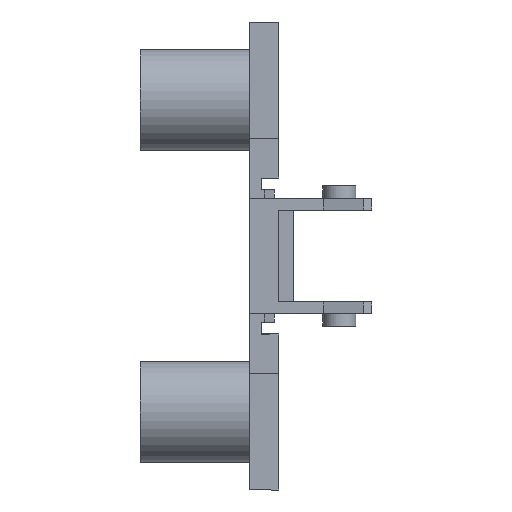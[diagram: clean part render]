
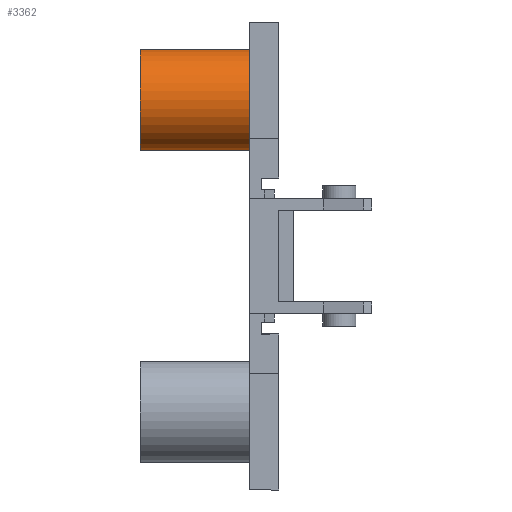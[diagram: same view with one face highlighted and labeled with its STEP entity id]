
A CAD part, front view. The second image highlights one B-rep face of the part: STEP entity #3362.
In plain terms, the highlighted cylindrical face has radius 5.2 mm (diameter 10.4 mm), a partial arc.
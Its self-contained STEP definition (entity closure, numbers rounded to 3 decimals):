
#1 = ORIENTED_EDGE ( 'NONE', *, *, #2151, .T. ) ;
#2 = ORIENTED_EDGE ( 'NONE', *, *, #2041, .F. ) ;
#3 = ORIENTED_EDGE ( 'NONE', *, *, #2095, .F. ) ;
#437 = CIRCLE ( 'NONE', #1840, 5.2 ) ;
#625 = CARTESIAN_POINT ( 'NONE',  ( -11.2, 0., 16. ) ) ;
#637 = DIRECTION ( 'NONE',  ( -1., 0., 0. ) ) ;
#638 = DIRECTION ( 'NONE',  ( 0., 0., 1. ) ) ;
#703 = CARTESIAN_POINT ( 'NONE',  ( -11.2, 0., 21.2 ) ) ;
#704 = DIRECTION ( 'NONE',  ( 1., 0., 0. ) ) ;
#730 = CARTESIAN_POINT ( 'NONE',  ( 0., 0., 16. ) ) ;
#737 = DIRECTION ( 'NONE',  ( -1., 0., 0. ) ) ;
#738 = DIRECTION ( 'NONE',  ( 0., 0., -1. ) ) ;
#768 = CARTESIAN_POINT ( 'NONE',  ( -11.2, 0., 10.8 ) ) ;
#769 = DIRECTION ( 'NONE',  ( 1., 0., 0. ) ) ;
#1045 = VECTOR ( 'NONE', #704, 1000. ) ;
#1049 = LINE ( 'NONE', #703, #1045 ) ;
#1090 = CIRCLE ( 'NONE', #2131, 5.2 ) ;
#1115 = LINE ( 'NONE', #768, #1116 ) ;
#1116 = VECTOR ( 'NONE', #769, 1000. ) ;
#1422 = FACE_OUTER_BOUND ( 'NONE', #1495, .T. ) ;
#1424 = CYLINDRICAL_SURFACE ( 'NONE', #1898, 5.2 ) ;
#1495 = EDGE_LOOP ( 'NONE', ( #3, #2, #1, #3582 ) ) ;
#1840 = AXIS2_PLACEMENT_3D ( 'NONE', #625, #637, #638 ) ;
#1898 = AXIS2_PLACEMENT_3D ( 'NONE', #2857, #2846, #2849 ) ;
#2041 = EDGE_CURVE ( 'NONE', #3247, #3246, #437, .T. ) ;
#2095 = EDGE_CURVE ( 'NONE', #3246, #3242, #1049, .T. ) ;
#2126 = EDGE_CURVE ( 'NONE', #3248, #3242, #1090, .T. ) ;
#2131 = AXIS2_PLACEMENT_3D ( 'NONE', #730, #737, #738 ) ;
#2151 = EDGE_CURVE ( 'NONE', #3247, #3248, #1115, .T. ) ;
#2506 = CARTESIAN_POINT ( 'NONE',  ( 0., 0., 21.2 ) ) ;
#2520 = CARTESIAN_POINT ( 'NONE',  ( -11.2, 0., 21.2 ) ) ;
#2521 = CARTESIAN_POINT ( 'NONE',  ( -11.2, 0., 10.8 ) ) ;
#2522 = CARTESIAN_POINT ( 'NONE',  ( 0., 0., 10.8 ) ) ;
#2846 = DIRECTION ( 'NONE',  ( 1., 0., 0. ) ) ;
#2849 = DIRECTION ( 'NONE',  ( 0., 0., -1. ) ) ;
#2857 = CARTESIAN_POINT ( 'NONE',  ( -11.2, 0., 16. ) ) ;
#3242 = VERTEX_POINT ( 'NONE', #2506 ) ;
#3246 = VERTEX_POINT ( 'NONE', #2520 ) ;
#3247 = VERTEX_POINT ( 'NONE', #2521 ) ;
#3248 = VERTEX_POINT ( 'NONE', #2522 ) ;
#3362 = ADVANCED_FACE ( 'NONE', ( #1422 ), #1424, .T. ) ;
#3582 = ORIENTED_EDGE ( 'NONE', *, *, #2126, .T. ) ;
